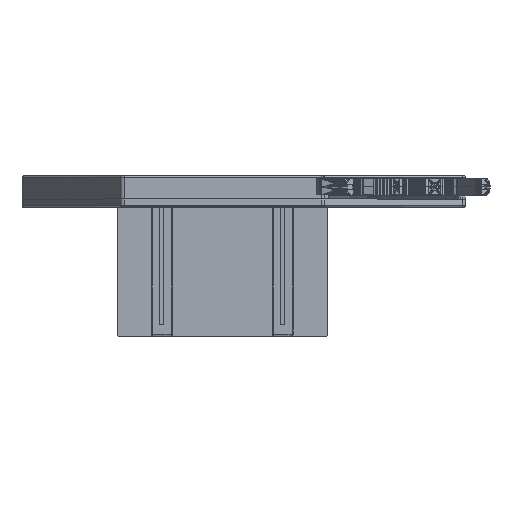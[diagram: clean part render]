
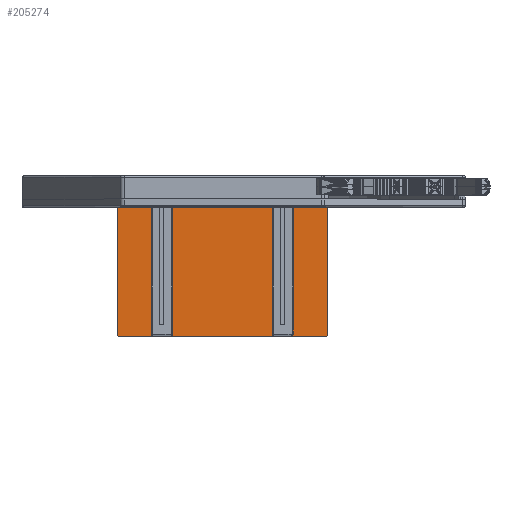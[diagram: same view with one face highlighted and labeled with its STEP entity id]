
A CAD part, top view. The second image highlights one B-rep face of the part: STEP entity #205274.
In plain terms, the highlighted planar face has unit normal (0, 0, 1).
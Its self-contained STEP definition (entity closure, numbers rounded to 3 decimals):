
#517=FACE_BOUND('',#17771,.T.);
#518=FACE_BOUND('',#17772,.T.);
#1080=ELLIPSE('',#218089,1.155,1.);
#1081=ELLIPSE('',#218096,1.155,1.);
#2905=FACE_OUTER_BOUND('',#17770,.T.);
#17770=EDGE_LOOP('',(#140986,#140987,#140988,#140989,#140990,#140991));
#17771=EDGE_LOOP('',(#140992,#140993,#140994,#140995));
#17772=EDGE_LOOP('',(#140996,#140997,#140998,#140999));
#31108=LINE('',#290393,#59789);
#31298=LINE('',#290775,#59979);
#31481=LINE('',#291141,#60162);
#35606=LINE('',#299549,#64287);
#35609=LINE('',#299635,#64290);
#35614=LINE('',#299644,#64295);
#35615=LINE('',#299647,#64296);
#35637=LINE('',#299690,#64318);
#35712=LINE('',#299841,#64393);
#35732=LINE('',#299880,#64413);
#35733=LINE('',#299881,#64414);
#35734=LINE('',#299882,#64415);
#59789=VECTOR('',#232663,10.);
#59979=VECTOR('',#233063,10.);
#60162=VECTOR('',#233448,10.);
#64287=VECTOR('',#240439,10.);
#64290=VECTOR('',#240444,10.);
#64295=VECTOR('',#240453,10.);
#64296=VECTOR('',#240456,10.);
#64318=VECTOR('',#240480,10.);
#64393=VECTOR('',#240629,10.);
#64413=VECTOR('',#240651,10.);
#64414=VECTOR('',#240652,10.);
#64415=VECTOR('',#240653,10.);
#88470=VERTEX_POINT('',#290380);
#88471=VERTEX_POINT('',#290381);
#88474=VERTEX_POINT('',#290392);
#88475=VERTEX_POINT('',#290396);
#88560=VERTEX_POINT('',#290772);
#88561=VERTEX_POINT('',#290774);
#88642=VERTEX_POINT('',#291138);
#88643=VERTEX_POINT('',#291140);
#91421=VERTEX_POINT('',#299547);
#91422=VERTEX_POINT('',#299548);
#91425=VERTEX_POINT('',#299642);
#91426=VERTEX_POINT('',#299646);
#91484=VERTEX_POINT('',#299838);
#91485=VERTEX_POINT('',#299840);
#102912=EDGE_CURVE('',#88470,#88471,#1080,.T.);
#102918=EDGE_CURVE('',#88474,#88470,#31108,.T.);
#102920=EDGE_CURVE('',#88475,#88474,#1081,.T.);
#103109=EDGE_CURVE('',#88561,#88560,#31298,.T.);
#103292=EDGE_CURVE('',#88643,#88642,#31481,.T.);
#107460=EDGE_CURVE('',#91421,#91422,#35606,.T.);
#107465=EDGE_CURVE('',#88471,#91421,#35609,.T.);
#107470=EDGE_CURVE('',#88642,#91425,#35614,.T.);
#107471=EDGE_CURVE('',#91426,#88643,#35615,.T.);
#107493=EDGE_CURVE('',#91425,#91426,#35637,.T.);
#107568=EDGE_CURVE('',#91485,#91484,#35712,.T.);
#107588=EDGE_CURVE('',#88475,#91422,#35732,.T.);
#107589=EDGE_CURVE('',#88560,#91485,#35733,.T.);
#107590=EDGE_CURVE('',#91484,#88561,#35734,.T.);
#140986=ORIENTED_EDGE('',*,*,#107465,.F.);
#140987=ORIENTED_EDGE('',*,*,#102912,.F.);
#140988=ORIENTED_EDGE('',*,*,#102918,.F.);
#140989=ORIENTED_EDGE('',*,*,#102920,.F.);
#140990=ORIENTED_EDGE('',*,*,#107588,.T.);
#140991=ORIENTED_EDGE('',*,*,#107460,.F.);
#140992=ORIENTED_EDGE('',*,*,#107589,.T.);
#140993=ORIENTED_EDGE('',*,*,#107568,.T.);
#140994=ORIENTED_EDGE('',*,*,#107590,.T.);
#140995=ORIENTED_EDGE('',*,*,#103109,.T.);
#140996=ORIENTED_EDGE('',*,*,#107471,.T.);
#140997=ORIENTED_EDGE('',*,*,#103292,.T.);
#140998=ORIENTED_EDGE('',*,*,#107470,.T.);
#140999=ORIENTED_EDGE('',*,*,#107493,.T.);
#190906=PLANE('',#219776);
#205274=ADVANCED_FACE('',(#2905,#517,#518),#190906,.F.);
#218089=AXIS2_PLACEMENT_3D('',#290382,#232649,#232650);
#218096=AXIS2_PLACEMENT_3D('',#290397,#232667,#232668);
#219776=AXIS2_PLACEMENT_3D('',#299879,#240649,#240650);
#232649=DIRECTION('center_axis',(0.,0.,-1.));
#232650=DIRECTION('ref_axis',(-1.,0.,0.));
#232663=DIRECTION('',(-1.,0.,0.));
#232667=DIRECTION('center_axis',(0.,0.,-1.));
#232668=DIRECTION('ref_axis',(1.,0.,0.));
#233063=DIRECTION('',(-1.,0.,0.));
#233448=DIRECTION('',(-1.,0.,0.));
#240439=DIRECTION('',(1.,0.,0.));
#240444=DIRECTION('',(0.,1.,0.));
#240453=DIRECTION('',(0.,1.,0.));
#240456=DIRECTION('',(0.,-1.,0.));
#240480=DIRECTION('',(1.,0.,0.));
#240629=DIRECTION('',(1.,0.,0.));
#240649=DIRECTION('center_axis',(0.,0.,-1.));
#240650=DIRECTION('ref_axis',(-1.,0.,0.));
#240651=DIRECTION('',(0.,1.,0.));
#240652=DIRECTION('',(0.,1.,0.));
#240653=DIRECTION('',(0.,-1.,0.));
#290380=CARTESIAN_POINT('',(-153.135,27.521,5.));
#290381=CARTESIAN_POINT('',(-154.289,28.521,5.));
#290382=CARTESIAN_POINT('Origin',(-153.135,28.521,5.));
#290392=CARTESIAN_POINT('',(-24.671,27.521,5.));
#290393=CARTESIAN_POINT('',(-40.,27.521,5.));
#290396=CARTESIAN_POINT('',(-23.516,28.521,5.));
#290397=CARTESIAN_POINT('Origin',(-24.671,28.521,5.));
#290772=CARTESIAN_POINT('',(-53.224,28.833,5.));
#290774=CARTESIAN_POINT('',(-49.777,28.833,5.));
#290775=CARTESIAN_POINT('',(-36.647,28.833,5.));
#291138=CARTESIAN_POINT('',(-128.324,28.833,5.));
#291140=CARTESIAN_POINT('',(-124.877,28.833,5.));
#291141=CARTESIAN_POINT('',(-74.197,28.833,5.));
#299547=CARTESIAN_POINT('',(-154.289,107.521,5.));
#299548=CARTESIAN_POINT('',(-23.516,107.521,5.));
#299549=CARTESIAN_POINT('',(-56.209,107.521,5.));
#299635=CARTESIAN_POINT('',(-154.289,27.521,5.));
#299642=CARTESIAN_POINT('',(-128.324,107.5,5.));
#299644=CARTESIAN_POINT('',(-128.324,28.177,5.));
#299646=CARTESIAN_POINT('',(-124.877,107.5,5.));
#299647=CARTESIAN_POINT('',(-124.877,70.011,5.));
#299690=CARTESIAN_POINT('',(-75.058,107.5,5.));
#299838=CARTESIAN_POINT('',(-49.777,107.5,5.));
#299840=CARTESIAN_POINT('',(-53.224,107.5,5.));
#299841=CARTESIAN_POINT('',(-37.508,107.5,5.));
#299879=CARTESIAN_POINT('Origin',(-23.516,32.521,5.));
#299880=CARTESIAN_POINT('',(-23.516,32.521,5.));
#299881=CARTESIAN_POINT('',(-53.224,33.177,5.));
#299882=CARTESIAN_POINT('',(-49.777,65.011,5.));
